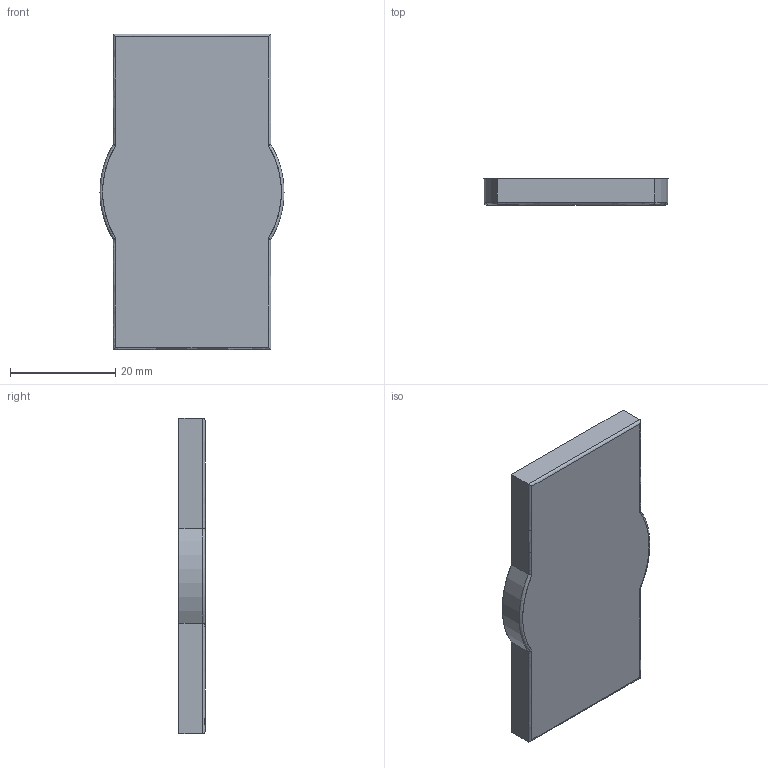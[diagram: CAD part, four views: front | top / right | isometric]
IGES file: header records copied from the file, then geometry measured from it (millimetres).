
Start section: SolidWorks IGES file using analytic representation for surfaces
Global section: file name: C:\Users\hcaixa\Documents\Gabinete Tecnico\72_produtos cliente\Timsteel\Mesas\Mesas Escritorio Operativas\Sistema Level Timsteel\AREIA-STUDIO FURNITURE CONCEPT\OUTROS\TACO.IGS; native system: SolidWorks 2014; preprocessor: SolidWorks 2014; author: hcaixa; date: 190710.121614; units: millimetre
Bounding box: 35 x 5 x 60 mm (x, y, z)
Surface area: 4592 mm2 (no closed solid volume)
Topology: 0 solids, 0 shells, 18 faces, 168 edges, 168 vertices
Faces by surface type: bspline 10, revolution 8
